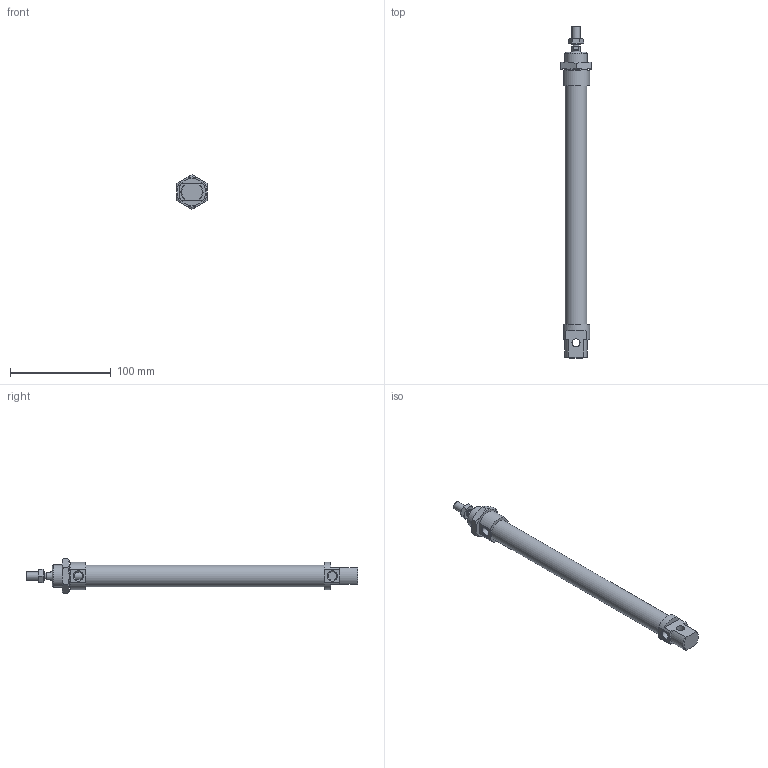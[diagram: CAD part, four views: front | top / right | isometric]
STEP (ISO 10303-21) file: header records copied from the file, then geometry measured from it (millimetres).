
FILE_DESCRIPTION((''),'2;1');
FILE_NAME('I:\Area Tecnica\Disegni\VARIE-3D\Componenti\1280\1280_##_####_#\1280_20_0200.iam.stp','2009-06-04T09:44:29',(''),(''),'Autodesk Inventor 2010','Autodesk Inventor 2010','');
FILE_SCHEMA(('AUTOMOTIVE_DESIGN { 1 0 10303 214 1 1 1 1 }'));
Length unit declared in the file: millimetre
Products named in the file (5): 1280_20_0200; C1280_20_200; S1280_20_200; 1200_20_05; 1200_20_06
Assembly tree (4 placements, depth 2):
  1280_20_0200
    C1280_20_200
    S1280_20_200
    1200_20_05
    1200_20_06
Bounding box: 30 x 330 x 34.64 mm (x, y, z)
Volume: 114954.7 mm3; surface area: 37904.8 mm2
Topology: 4 solids, 4 shells, 92 faces, 204 edges, 125 vertices
Faces by surface type: plane 41, cone 28, bspline 12, cylinder 11
Full cylindrical faces by diameter (mm): 6.5 x1, 8 x4, 21.2 x1, 22 x1
Entity records: 2742 total; most frequent: CARTESIAN_POINT 697, DIRECTION 376, ORIENTED_EDGE 356, EDGE_CURVE 178, AXIS2_PLACEMENT_3D 163, EDGE_LOOP 124, VERTEX_POINT 118, STYLED_ITEM 96
